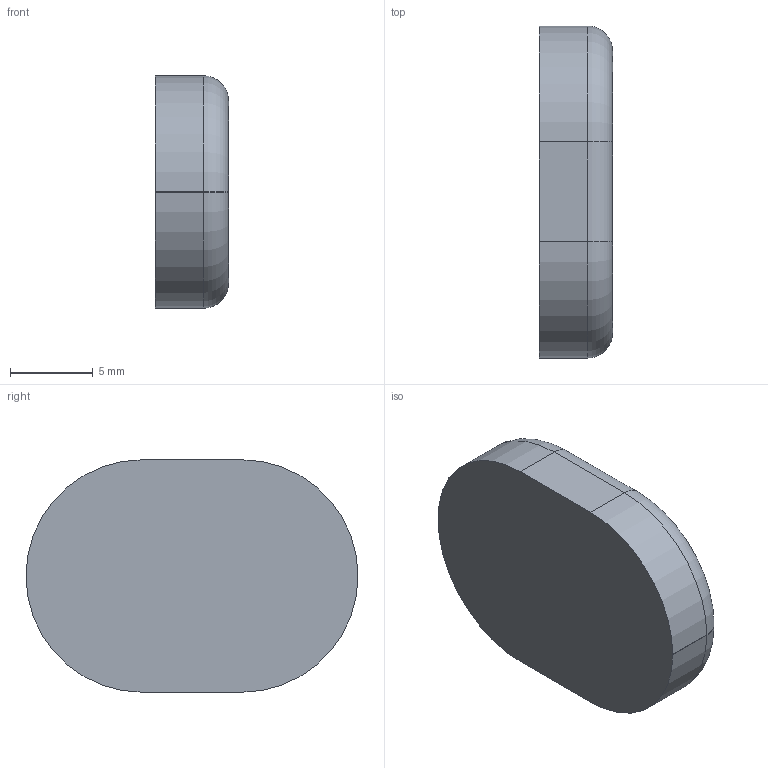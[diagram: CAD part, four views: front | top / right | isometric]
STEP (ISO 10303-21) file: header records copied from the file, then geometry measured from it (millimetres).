
FILE_DESCRIPTION(('Open CASCADE Model'),'2;1');
FILE_NAME('Open CASCADE Shape Model','2026-09-08T11:26:26',('Author'),( 'Open CASCADE'),'Open CASCADE STEP processor 7.8','build123d', 'Unknown');
FILE_SCHEMA(('AUTOMOTIVE_DESIGN { 1 0 10303 214 1 1 1 1 }'));
Length unit declared in the file: millimetre
Products named in the file (1): SOLID
Bounding box: 4.4 x 20 x 14 mm (x, y, z)
Volume: 1018.6 mm3; surface area: 692.9 mm2
Topology: 1 solids, 1 shells, 39 faces, 100 edges, 64 vertices
Faces by surface type: plane 19, cylinder 16, torus 4
Entity records: 2556 total; most frequent: CARTESIAN_POINT 524, DIRECTION 396, LINE 240, VECTOR 240, ORIENTED_EDGE 200, PCURVE 200, DEFINITIONAL_REPRESENTATION 200, EDGE_CURVE 100
